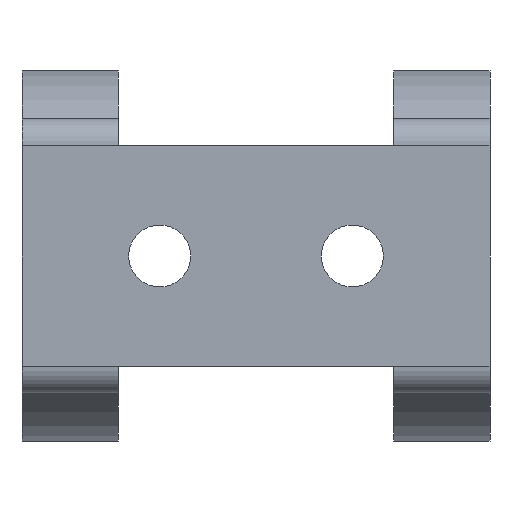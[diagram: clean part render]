
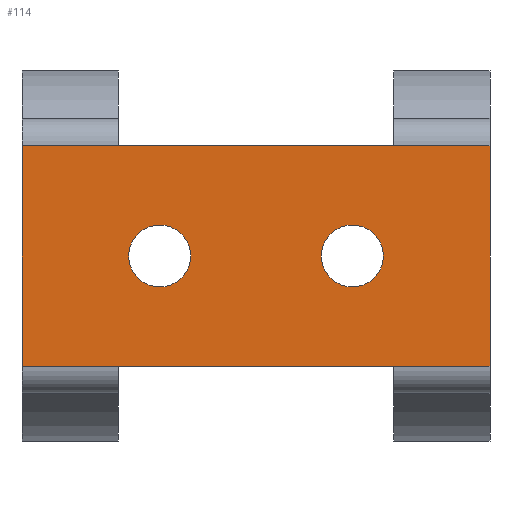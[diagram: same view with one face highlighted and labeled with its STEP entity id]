
A CAD part, front view. The second image highlights one B-rep face of the part: STEP entity #114.
In plain terms, the highlighted planar face has unit normal (0, -1, 0).
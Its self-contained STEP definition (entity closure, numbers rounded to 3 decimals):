
#114=ADVANCED_FACE('',(#204,#205,#206),#207,.F.);
#204=FACE_OUTER_BOUND('',#306,.T.);
#205=FACE_BOUND('',#307,.T.);
#206=FACE_BOUND('',#308,.T.);
#207=PLANE('',#309);
#306=EDGE_LOOP('',(#650,#651,#652,#653,#654,#655,#656,#657));
#307=EDGE_LOOP('',(#658));
#308=EDGE_LOOP('',(#659));
#309=AXIS2_PLACEMENT_3D('',#660,#661,#662);
#650=ORIENTED_EDGE('',*,*,#816,.T.);
#651=ORIENTED_EDGE('',*,*,#831,.T.);
#652=ORIENTED_EDGE('',*,*,#858,.T.);
#653=ORIENTED_EDGE('',*,*,#810,.F.);
#654=ORIENTED_EDGE('',*,*,#820,.F.);
#655=ORIENTED_EDGE('',*,*,#761,.F.);
#656=ORIENTED_EDGE('',*,*,#798,.F.);
#657=ORIENTED_EDGE('',*,*,#845,.T.);
#658=ORIENTED_EDGE('',*,*,#764,.F.);
#659=ORIENTED_EDGE('',*,*,#744,.F.);
#660=CARTESIAN_POINT('',(-17.0,-24.777,-9.717));
#661=DIRECTION('',(0.0,1.0,0.0));
#662=DIRECTION('',(-1.0,0.0,0.0));
#744=EDGE_CURVE('',#884,#884,#885,.T.);
#761=EDGE_CURVE('',#915,#918,#919,.T.);
#764=EDGE_CURVE('',#923,#923,#924,.T.);
#798=EDGE_CURVE('',#982,#915,#984,.T.);
#810=EDGE_CURVE('',#891,#1001,#1005,.T.);
#816=EDGE_CURVE('',#1016,#1014,#1017,.T.);
#820=EDGE_CURVE('',#918,#891,#1022,.T.);
#831=EDGE_CURVE('',#1014,#1037,#1039,.T.);
#845=EDGE_CURVE('',#982,#1016,#1059,.T.);
#858=EDGE_CURVE('',#1037,#1001,#1076,.T.);
#884=VERTEX_POINT('',#1110);
#885=CIRCLE('',#1111,2.25);
#891=VERTEX_POINT('',#1118);
#915=VERTEX_POINT('',#1151);
#918=VERTEX_POINT('',#1154);
#919=LINE('',#1155,#1156);
#923=VERTEX_POINT('',#1161);
#924=CIRCLE('',#1162,2.25);
#982=VERTEX_POINT('',#1243);
#984=LINE('',#1245,#1246);
#1001=VERTEX_POINT('',#1271);
#1005=LINE('',#1276,#1277);
#1014=VERTEX_POINT('',#1290);
#1016=VERTEX_POINT('',#1293);
#1017=LINE('',#1294,#1295);
#1022=LINE('',#1303,#1304);
#1037=VERTEX_POINT('',#1325);
#1039=LINE('',#1327,#1328);
#1059=LINE('',#1358,#1359);
#1076=LINE('',#1385,#1386);
#1110=CARTESIAN_POINT('',(7.0,-24.777,0.533));
#1111=AXIS2_PLACEMENT_3D('',#1416,#1417,#1418);
#1118=CARTESIAN_POINT('',(10.0,-24.777,6.283));
#1151=CARTESIAN_POINT('',(-17.0,-24.777,6.283));
#1154=CARTESIAN_POINT('',(-10.0,-24.777,6.283));
#1155=CARTESIAN_POINT('',(-17.0,-24.777,6.283));
#1156=VECTOR('',#1447,1.0);
#1161=CARTESIAN_POINT('',(-7.0,-24.777,0.533));
#1162=AXIS2_PLACEMENT_3D('',#1452,#1453,#1454);
#1243=CARTESIAN_POINT('',(-17.0,-24.777,-9.717));
#1245=CARTESIAN_POINT('',(-17.0,-24.777,-9.717));
#1246=VECTOR('',#1508,1.0);
#1271=CARTESIAN_POINT('',(17.0,-24.777,6.283));
#1276=CARTESIAN_POINT('',(10.0,-24.777,6.283));
#1277=VECTOR('',#1524,1.0);
#1290=CARTESIAN_POINT('',(10.0,-24.777,-9.717));
#1293=CARTESIAN_POINT('',(-10.0,-24.777,-9.717));
#1294=CARTESIAN_POINT('',(-17.0,-24.777,-9.717));
#1295=VECTOR('',#1530,1.0);
#1303=CARTESIAN_POINT('',(-17.0,-24.777,6.283));
#1304=VECTOR('',#1534,1.0);
#1325=CARTESIAN_POINT('',(17.0,-24.777,-9.717));
#1327=CARTESIAN_POINT('',(10.0,-24.777,-9.717));
#1328=VECTOR('',#1553,1.0);
#1358=CARTESIAN_POINT('',(-17.0,-24.777,-9.717));
#1359=VECTOR('',#1573,1.0);
#1385=CARTESIAN_POINT('',(17.0,-24.777,-9.717));
#1386=VECTOR('',#1592,1.0);
#1416=CARTESIAN_POINT('',(7.0,-24.777,-1.717));
#1417=DIRECTION('',(0.0,-1.0,0.0));
#1418=DIRECTION('',(0.0,0.0,1.0));
#1447=DIRECTION('',(1.0,0.0,0.0));
#1452=CARTESIAN_POINT('',(-7.0,-24.777,-1.717));
#1453=DIRECTION('',(0.0,-1.0,0.0));
#1454=DIRECTION('',(0.0,0.0,1.0));
#1508=DIRECTION('',(0.0,0.0,1.0));
#1524=DIRECTION('',(1.0,0.0,0.0));
#1530=DIRECTION('',(1.0,0.0,0.0));
#1534=DIRECTION('',(1.0,0.0,0.0));
#1553=DIRECTION('',(1.0,0.0,0.0));
#1573=DIRECTION('',(1.0,0.0,0.0));
#1592=DIRECTION('',(0.0,0.0,1.0));
